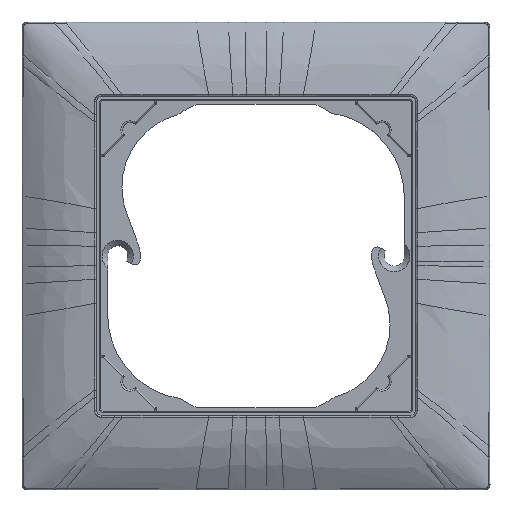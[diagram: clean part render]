
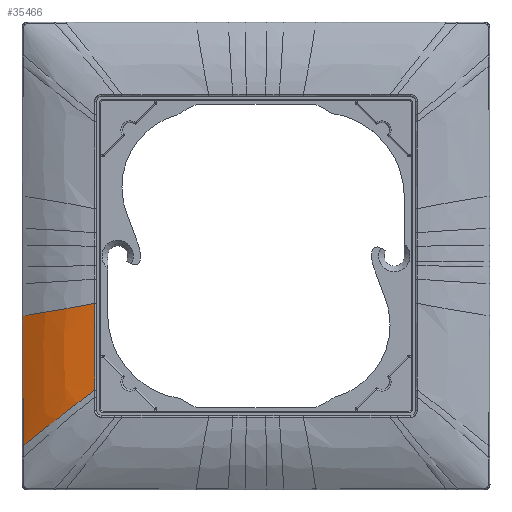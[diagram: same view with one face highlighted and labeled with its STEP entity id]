
A CAD part, top view. The second image highlights one B-rep face of the part: STEP entity #35466.
In plain terms, the highlighted free-form (B-spline) face has degree [3, 3] with [7, 8] control points.
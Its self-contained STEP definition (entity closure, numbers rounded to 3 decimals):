
#7359=CARTESIAN_POINT('',(-43.764,2.634,35.682));
#7360=CARTESIAN_POINT('',(-43.368,2.857,35.37));
#7361=CARTESIAN_POINT('',(-41.998,3.621,34.29));
#7362=CARTESIAN_POINT('',(-39.262,5.022,32.122));
#7363=CARTESIAN_POINT('',(-34.809,6.622,28.588));
#7364=CARTESIAN_POINT('',(-31.738,7.199,26.231));
#7365=CARTESIAN_POINT('',(-30.332,7.284,25.234));
#7390=CARTESIAN_POINT('',(-43.775,2.64,11.236));
#7391=CARTESIAN_POINT('',(-43.775,2.64,12.238));
#7392=CARTESIAN_POINT('',(-43.774,2.64,14.189));
#7393=CARTESIAN_POINT('',(-43.774,2.64,16.959));
#7394=CARTESIAN_POINT('',(-43.774,2.639,19.566));
#7395=CARTESIAN_POINT('',(-43.773,2.639,22.105));
#7396=CARTESIAN_POINT('',(-43.773,2.639,24.633));
#7397=CARTESIAN_POINT('',(-43.772,2.638,28.111));
#7398=CARTESIAN_POINT('',(-43.77,2.637,31.567));
#7399=CARTESIAN_POINT('',(-43.766,2.635,34.267));
#7400=CARTESIAN_POINT('',(-43.764,2.634,35.682));
#7402=CARTESIAN_POINT('',(-43.764,2.634,35.682));
#8178=CARTESIAN_POINT('',(-43.775,2.64,11.236));
#8179=CARTESIAN_POINT('',(-43.417,2.862,11.181));
#8180=CARTESIAN_POINT('',(-42.18,3.623,10.988));
#8181=CARTESIAN_POINT('',(-39.734,5.022,10.598));
#8182=CARTESIAN_POINT('',(-35.652,6.64,9.919));
#8183=CARTESIAN_POINT('',(-32.326,7.216,9.306));
#8184=CARTESIAN_POINT('',(-30.326,7.29,8.901));
#8186=CARTESIAN_POINT('',(-30.326,7.29,8.901));
#8187=CARTESIAN_POINT('',(-30.326,7.29,10.012));
#8188=CARTESIAN_POINT('',(-30.326,7.29,12.148));
#8189=CARTESIAN_POINT('',(-30.326,7.29,15.316));
#8190=CARTESIAN_POINT('',(-30.328,7.29,17.861));
#8191=CARTESIAN_POINT('',(-30.323,7.289,21.851));
#8192=CARTESIAN_POINT('',(-30.341,7.286,24.098));
#8193=CARTESIAN_POINT('',(-30.332,7.284,25.234));
#26280=VERTEX_POINT('',#7402);
#26281=CARTESIAN_POINT('',(-43.775,2.64,
11.236));
#26282=VERTEX_POINT('',#26281);
#26320=CARTESIAN_POINT('',(-30.326,7.29,
8.901));
#26321=VERTEX_POINT('',#26320);
#26322=VERTEX_POINT('',#8193);
#35402=CARTESIAN_POINT('',(-43.901,2.561,
11.025));
#35403=CARTESIAN_POINT('',(-43.901,2.561,
13.085));
#35404=CARTESIAN_POINT('',(-43.901,2.561,
17.152));
#35405=CARTESIAN_POINT('',(-43.9,2.561,
23.303));
#35406=CARTESIAN_POINT('',(-43.899,2.561,
28.447));
#35407=CARTESIAN_POINT('',(-43.896,2.561,
32.699));
#35408=CARTESIAN_POINT('',(-43.894,2.561,
34.887));
#35409=CARTESIAN_POINT('',(-43.892,2.561,
36.027));
#35410=CARTESIAN_POINT('',(-43.502,2.809,
10.966));
#35411=CARTESIAN_POINT('',(-43.501,2.809,
13.007));
#35412=CARTESIAN_POINT('',(-43.5,2.809,
17.037));
#35413=CARTESIAN_POINT('',(-43.496,2.809,
23.127));
#35414=CARTESIAN_POINT('',(-43.489,2.809,
28.209));
#35415=CARTESIAN_POINT('',(-43.475,2.809,
32.402));
#35416=CARTESIAN_POINT('',(-43.462,2.809,
34.557));
#35417=CARTESIAN_POINT('',(-43.451,2.809,
35.679));
#35418=CARTESIAN_POINT('',(-42.223,3.599,
10.774));
#35419=CARTESIAN_POINT('',(-42.221,3.599,
12.754));
#35420=CARTESIAN_POINT('',(-42.216,3.599,
16.666));
#35421=CARTESIAN_POINT('',(-42.2,3.599,
22.555));
#35422=CARTESIAN_POINT('',(-42.171,3.599,
27.44));
#35423=CARTESIAN_POINT('',(-42.12,3.599,
31.445));
#35424=CARTESIAN_POINT('',(-42.073,3.599,
33.491));
#35425=CARTESIAN_POINT('',(-42.034,3.599,
34.554));
#35426=CARTESIAN_POINT('',(-39.734,5.022,
10.39));
#35427=CARTESIAN_POINT('',(-39.729,5.022,
12.251));
#35428=CARTESIAN_POINT('',(-39.715,5.022,
15.923));
#35429=CARTESIAN_POINT('',(-39.669,5.022,
21.41));
#35430=CARTESIAN_POINT('',(-39.592,5.022,
25.906));
#35431=CARTESIAN_POINT('',(-39.457,5.022,
29.542));
#35432=CARTESIAN_POINT('',(-39.338,5.022,
31.379));
#35433=CARTESIAN_POINT('',(-39.242,5.022,
32.326));
#35434=CARTESIAN_POINT('',(-35.608,6.658,
9.726));
#35435=CARTESIAN_POINT('',(-35.609,6.658,
11.389));
#35436=CARTESIAN_POINT('',(-35.601,6.658,
14.658));
#35437=CARTESIAN_POINT('',(-35.524,6.658,
19.475));
#35438=CARTESIAN_POINT('',(-35.364,6.658,
23.34));
#35439=CARTESIAN_POINT('',(-35.084,6.658,
26.394));
#35440=CARTESIAN_POINT('',(-34.848,6.658,
27.906));
#35441=CARTESIAN_POINT('',(-34.673,6.658,
28.675));
#35442=CARTESIAN_POINT('',(-32.231,7.232,
9.119));
#35443=CARTESIAN_POINT('',(-32.236,7.232,
10.639));
#35444=CARTESIAN_POINT('',(-32.237,7.232,
13.605));
#35445=CARTESIAN_POINT('',(-32.184,7.232,
17.941));
#35446=CARTESIAN_POINT('',(-32.06,7.232,
21.416));
#35447=CARTESIAN_POINT('',(-31.842,7.232,
24.173));
#35448=CARTESIAN_POINT('',(-31.661,7.232,
25.545));
#35449=CARTESIAN_POINT('',(-31.533,7.232,
26.245));
#35450=CARTESIAN_POINT('',(-30.182,7.295,
8.709));
#35451=CARTESIAN_POINT('',(-30.182,7.295,
10.16));
#35452=CARTESIAN_POINT('',(-30.182,7.295,
12.968));
#35453=CARTESIAN_POINT('',(-30.178,7.295,
17.074));
#35454=CARTESIAN_POINT('',(-30.168,7.295,
20.417));
#35455=CARTESIAN_POINT('',(-30.15,7.295,
23.137));
#35456=CARTESIAN_POINT('',(-30.134,7.295,
24.523));
#35457=CARTESIAN_POINT('',(-30.124,7.295,
25.243));
#35458=B_SPLINE_SURFACE_WITH_KNOTS('',3,3,((#35402,#35403,#35404,#35405,#35406,
#35407,#35408,#35409),(#35410,#35411,#35412,#35413,#35414,#35415,#35416,#35417),
(#35418,#35419,#35420,#35421,#35422,#35423,#35424,#35425),(#35426,#35427,#35428,
#35429,#35430,#35431,#35432,#35433),(#35434,#35435,#35436,#35437,#35438,#35439,
#35440,#35441),(#35442,#35443,#35444,#35445,#35446,#35447,#35448,#35449),
(#35450,#35451,#35452,#35453,#35454,#35455,#35456,#35457)),.UNSPECIFIED.,.F.,
.F.,.F.,(4,1,1,1,4),(4,1,1,1,1,4),(0.008,0.102,
0.308,0.581,0.988),(0.537,
0.555,0.573,0.59,0.599,
0.608),.UNSPECIFIED.);
#35459=ORIENTED_EDGE('',*,*,#33043,.F.);
#35461=ORIENTED_EDGE('',*,*,#35460,.T.);
#35462=ORIENTED_EDGE('',*,*,#35392,.T.);
#35463=ORIENTED_EDGE('',*,*,#32942,.F.);
#35464=EDGE_LOOP('',(#35459,#35461,#35462,#35463));
#35465=FACE_OUTER_BOUND('',#35464,.F.);
#7366=B_SPLINE_CURVE_WITH_KNOTS('',3,(#7359,#7360,#7361,#7362,#7363,#7364,
#7365),.UNSPECIFIED.,.F.,.F.,(4,1,1,1,4),(0.,0.089,
0.306,0.592,1.),.UNSPECIFIED.);
#7401=B_SPLINE_CURVE_WITH_KNOTS('',3,(#7390,#7391,#7392,#7393,#7394,#7395,#7396,
#7397,#7398,#7399,#7400),.UNSPECIFIED.,.F.,.F.,(4,1,1,1,1,1,1,1,4),(0.,
0.125,0.25,0.375,0.5,0.625,0.75,0.875,1.),.UNSPECIFIED.);
#8185=B_SPLINE_CURVE_WITH_KNOTS('',3,(#8178,#8179,#8180,#8181,#8182,#8183,
#8184),.UNSPECIFIED.,.F.,.F.,(4,1,1,1,4),(0.,0.088,
0.302,0.586,1.),.UNSPECIFIED.);
#8194=B_SPLINE_CURVE_WITH_KNOTS('',3,(#8186,#8187,#8188,#8189,#8190,#8191,#8192,
#8193),.UNSPECIFIED.,.F.,.F.,(4,1,1,1,1,4),(0.,0.2,0.4,0.6,0.8,1.),
.UNSPECIFIED.);
#32942=EDGE_CURVE('',#26280,#26322,#7366,.T.);
#33043=EDGE_CURVE('',#26282,#26280,#7401,.T.);
#35392=EDGE_CURVE('',#26321,#26322,#8194,.T.);
#35460=EDGE_CURVE('',#26282,#26321,#8185,.T.);
#35466=ADVANCED_FACE('',(#35465),#35458,.F.);
